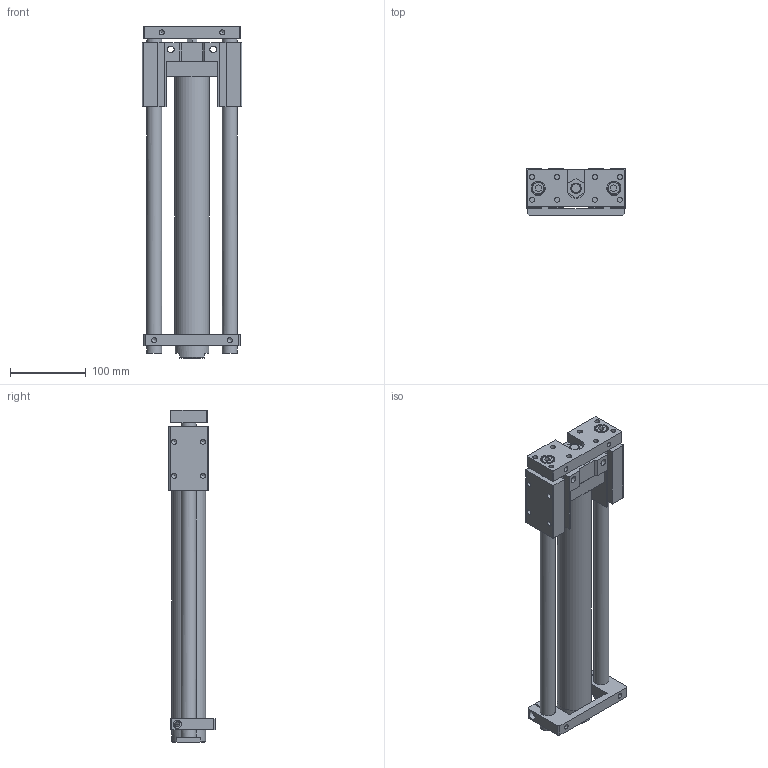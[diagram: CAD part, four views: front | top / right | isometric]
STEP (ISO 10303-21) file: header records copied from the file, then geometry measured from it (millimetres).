
FILE_DESCRIPTION((''),'2;1');
FILE_NAME('I:\3D電子目錄\氣缸\TMB(U)\TMB(U)\TMB(U)40\TMB(U)40x300.stp','2007-10-05T11:45:50',('Administrator'),(''),'Autodesk Inventor 11','Autodesk Inventor 11','');
FILE_SCHEMA(('AUTOMOTIVE_DESIGN { 1 0 10303 214 1 1 1 1 }'));
Length unit declared in the file: millimetre
Products named in the file (1): TMB(U)40
Bounding box: 132 x 61 x 439 mm (x, y, z)
Volume: 1318759.1 mm3; surface area: 191513.8 mm2
Topology: 1 solids, 1 shells, 201 faces, 524 edges, 344 vertices
Faces by surface type: plane 118, bspline 41, cylinder 23, cone 17, torus 2
Full cylindrical faces by diameter (mm): 6.5 x2, 6.647 x6, 11 x1, 14 x1, 16 x2, 18 x2, 20 x2, 45 x2
Entity records: 6100 total; most frequent: CARTESIAN_POINT 1571, DIRECTION 870, ORIENTED_EDGE 858, EDGE_CURVE 429, EDGE_LOOP 324, VERTEX_POINT 319, VECTOR 302, LINE 302
